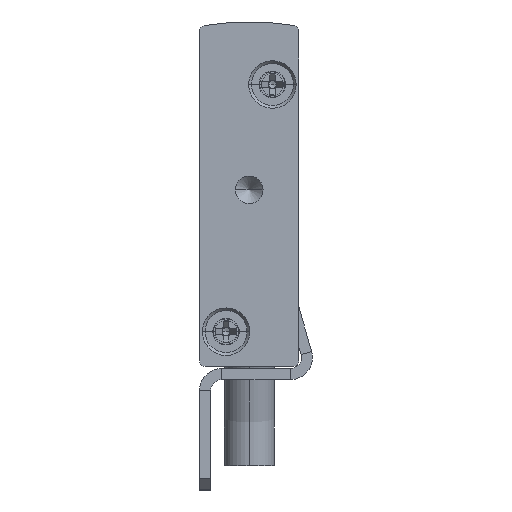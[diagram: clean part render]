
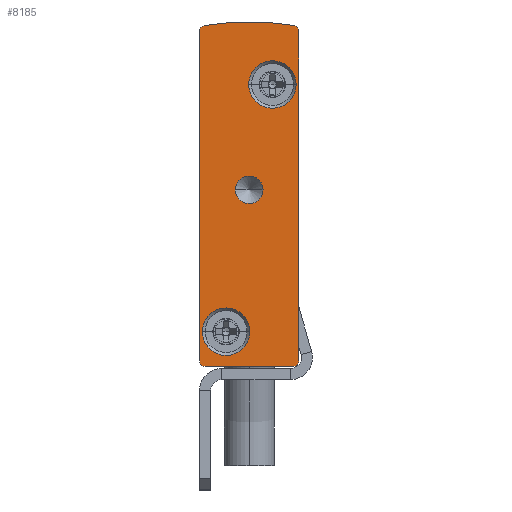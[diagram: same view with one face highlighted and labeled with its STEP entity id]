
A CAD part, front view. The second image highlights one B-rep face of the part: STEP entity #8185.
In plain terms, the highlighted planar face has unit normal (0, -1, 0).
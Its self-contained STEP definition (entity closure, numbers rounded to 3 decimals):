
#2 = CARTESIAN_POINT ( 'NONE',  ( -8.5, -2.5, 0. ) ) ;
#200 = AXIS2_PLACEMENT_3D ( 'NONE', #3385, #20024, #22254 ) ;
#532 = AXIS2_PLACEMENT_3D ( 'NONE', #8496, #1810, #4905 ) ;
#612 = LINE ( 'NONE', #11208, #20469 ) ;
#1168 = AXIS2_PLACEMENT_3D ( 'NONE', #7334, #2281, #15876 ) ;
#1370 = CARTESIAN_POINT ( 'NONE',  ( -8.5, -2.5, 0. ) ) ;
#1477 = DIRECTION ( 'NONE',  ( -1., 0., 0. ) ) ;
#1658 = FACE_BOUND ( 'NONE', #6077, .T. ) ;
#1697 = AXIS2_PLACEMENT_3D ( 'NONE', #4366, #7597, #7821 ) ;
#1810 = DIRECTION ( 'NONE',  ( 0., -1., 0. ) ) ;
#1840 = DIRECTION ( 'NONE',  ( -1., 0., 0. ) ) ;
#1948 = ORIENTED_EDGE ( 'NONE', *, *, #4881, .F. ) ;
#1969 = CARTESIAN_POINT ( 'NONE',  ( -9., -2.5, 30.402 ) ) ;
#2281 = DIRECTION ( 'NONE',  ( 0., -1., 0. ) ) ;
#2587 = EDGE_CURVE ( 'NONE', #16223, #15637, #18106, .T. ) ;
#2727 = CARTESIAN_POINT ( 'NONE',  ( -9., -2.5, 0.5 ) ) ;
#2774 = DIRECTION ( 'NONE',  ( -1., 0., 0. ) ) ;
#2893 = AXIS2_PLACEMENT_3D ( 'NONE', #19002, #17650, #10863 ) ;
#2923 = CIRCLE ( 'NONE', #13259, 23.658 ) ;
#2930 = CARTESIAN_POINT ( 'NONE',  ( -4.5, -2.5, 16. ) ) ;
#3251 = DIRECTION ( 'NONE',  ( 0., -1., 0. ) ) ;
#3293 = CIRCLE ( 'NONE', #16077, 2.15 ) ;
#3342 = CIRCLE ( 'NONE', #532, 2.15 ) ;
#3385 = CARTESIAN_POINT ( 'NONE',  ( -0.5, -2.5, 30.402 ) ) ;
#3428 = DIRECTION ( 'NONE',  ( -1., 0., 0. ) ) ;
#3610 = ORIENTED_EDGE ( 'NONE', *, *, #5762, .F. ) ;
#3763 = AXIS2_PLACEMENT_3D ( 'NONE', #17530, #17457, #1840 ) ;
#4147 = VERTEX_POINT ( 'NONE', #21912 ) ;
#4291 = CIRCLE ( 'NONE', #16846, 0.5 ) ;
#4363 = VECTOR ( 'NONE', #20777, 1000. ) ;
#4366 = CARTESIAN_POINT ( 'NONE',  ( -6.6, -2.5, 3.15 ) ) ;
#4851 = EDGE_CURVE ( 'NONE', #17698, #13204, #9985, .T. ) ;
#4881 = EDGE_CURVE ( 'NONE', #9770, #19755, #20948, .T. ) ;
#4905 = DIRECTION ( 'NONE',  ( 1., 0., 0. ) ) ;
#5040 = VERTEX_POINT ( 'NONE', #1370 ) ;
#5288 = CIRCLE ( 'NONE', #3763, 0.5 ) ;
#5591 = EDGE_LOOP ( 'NONE', ( #17947, #11066, #19235, #11333, #6554, #3610, #9309, #7881 ) ) ;
#5715 = FACE_BOUND ( 'NONE', #15559, .T. ) ;
#5742 = AXIS2_PLACEMENT_3D ( 'NONE', #9124, #7235, #20862 ) ;
#5762 = EDGE_CURVE ( 'NONE', #21184, #17698, #612, .T. ) ;
#5858 = ORIENTED_EDGE ( 'NONE', *, *, #16618, .F. ) ;
#6077 = EDGE_LOOP ( 'NONE', ( #8360, #6309 ) ) ;
#6246 = LINE ( 'NONE', #2, #4363 ) ;
#6268 = VERTEX_POINT ( 'NONE', #2727 ) ;
#6309 = ORIENTED_EDGE ( 'NONE', *, *, #10233, .T. ) ;
#6550 = EDGE_CURVE ( 'NONE', #13204, #5040, #6246, .T. ) ;
#6554 = ORIENTED_EDGE ( 'NONE', *, *, #4851, .F. ) ;
#6627 = CARTESIAN_POINT ( 'NONE',  ( -9., -2.5, 30.402 ) ) ;
#6826 = DIRECTION ( 'NONE',  ( 0., 1., 0. ) ) ;
#6901 = CARTESIAN_POINT ( 'NONE',  ( -4.5, -2.5, 7.592 ) ) ;
#6929 = VERTEX_POINT ( 'NONE', #17888 ) ;
#7235 = DIRECTION ( 'NONE',  ( 0., 1., 0. ) ) ;
#7244 = EDGE_CURVE ( 'NONE', #6268, #15433, #15902, .T. ) ;
#7334 = CARTESIAN_POINT ( 'NONE',  ( -6.6, -2.5, 3.15 ) ) ;
#7476 = EDGE_LOOP ( 'NONE', ( #16913, #1948 ) ) ;
#7597 = DIRECTION ( 'NONE',  ( 0., -1., 0. ) ) ;
#7821 = DIRECTION ( 'NONE',  ( 1., 0., 0. ) ) ;
#7881 = ORIENTED_EDGE ( 'NONE', *, *, #9158, .F. ) ;
#8185 = ADVANCED_FACE ( 'NONE', ( #5715, #9697, #12355, #1658 ), #10846, .F. ) ;
#8231 = CARTESIAN_POINT ( 'NONE',  ( -2.4, -2.5, 25.55 ) ) ;
#8259 = ORIENTED_EDGE ( 'NONE', *, *, #16978, .F. ) ;
#8360 = ORIENTED_EDGE ( 'NONE', *, *, #2587, .T. ) ;
#8496 = CARTESIAN_POINT ( 'NONE',  ( -2.4, -2.5, 25.55 ) ) ;
#8592 = CARTESIAN_POINT ( 'NONE',  ( -8.592, -2.5, 30.893 ) ) ;
#8883 = CARTESIAN_POINT ( 'NONE',  ( -5.75, -2.5, 16. ) ) ;
#8939 = EDGE_CURVE ( 'NONE', #19755, #9770, #20487, .T. ) ;
#9124 = CARTESIAN_POINT ( 'NONE',  ( -8.5, -2.5, 30.402 ) ) ;
#9158 = EDGE_CURVE ( 'NONE', #16053, #12154, #2923, .T. ) ;
#9258 = EDGE_CURVE ( 'NONE', #15433, #16053, #4291, .T. ) ;
#9294 = EDGE_CURVE ( 'NONE', #5040, #6268, #5288, .T. ) ;
#9309 = ORIENTED_EDGE ( 'NONE', *, *, #13898, .F. ) ;
#9697 = FACE_BOUND ( 'NONE', #7476, .T. ) ;
#9770 = VERTEX_POINT ( 'NONE', #12215 ) ;
#9985 = CIRCLE ( 'NONE', #2893, 0.5 ) ;
#10233 = EDGE_CURVE ( 'NONE', #15637, #16223, #13100, .T. ) ;
#10846 = PLANE ( 'NONE',  #5742 ) ;
#10863 = DIRECTION ( 'NONE',  ( -1., 0., 0. ) ) ;
#11066 = ORIENTED_EDGE ( 'NONE', *, *, #7244, .F. ) ;
#11208 = CARTESIAN_POINT ( 'NONE',  ( 0., -2.5, 30.402 ) ) ;
#11333 = ORIENTED_EDGE ( 'NONE', *, *, #6550, .F. ) ;
#12148 = DIRECTION ( 'NONE',  ( 0., 1., 0. ) ) ;
#12153 = CIRCLE ( 'NONE', #200, 0.5 ) ;
#12154 = VERTEX_POINT ( 'NONE', #20879 ) ;
#12169 = DIRECTION ( 'NONE',  ( 0., 1., 0. ) ) ;
#12215 = CARTESIAN_POINT ( 'NONE',  ( -8.75, -2.5, 3.15 ) ) ;
#12355 = FACE_OUTER_BOUND ( 'NONE', #5591, .T. ) ;
#12606 = AXIS2_PLACEMENT_3D ( 'NONE', #20510, #12148, #3428 ) ;
#13100 = CIRCLE ( 'NONE', #16143, 1.25 ) ;
#13204 = VERTEX_POINT ( 'NONE', #19536 ) ;
#13259 = AXIS2_PLACEMENT_3D ( 'NONE', #6901, #6826, #1477 ) ;
#13865 = CARTESIAN_POINT ( 'NONE',  ( -4.45, -2.5, 3.15 ) ) ;
#13898 = EDGE_CURVE ( 'NONE', #12154, #21184, #12153, .T. ) ;
#13901 = CARTESIAN_POINT ( 'NONE',  ( -8.5, -2.5, 30.402 ) ) ;
#15209 = DIRECTION ( 'NONE',  ( 1., 0., 0. ) ) ;
#15433 = VERTEX_POINT ( 'NONE', #1969 ) ;
#15559 = EDGE_LOOP ( 'NONE', ( #5858, #8259 ) ) ;
#15606 = DIRECTION ( 'NONE',  ( -1., 0., 0. ) ) ;
#15637 = VERTEX_POINT ( 'NONE', #21786 ) ;
#15876 = DIRECTION ( 'NONE',  ( 1., 0., 0. ) ) ;
#15902 = LINE ( 'NONE', #6627, #18304 ) ;
#16053 = VERTEX_POINT ( 'NONE', #8592 ) ;
#16077 = AXIS2_PLACEMENT_3D ( 'NONE', #8231, #3251, #15209 ) ;
#16143 = AXIS2_PLACEMENT_3D ( 'NONE', #2930, #21823, #2774 ) ;
#16223 = VERTEX_POINT ( 'NONE', #8883 ) ;
#16412 = DIRECTION ( 'NONE',  ( 0., 0., -1. ) ) ;
#16618 = EDGE_CURVE ( 'NONE', #4147, #6929, #3342, .T. ) ;
#16843 = CARTESIAN_POINT ( 'NONE',  ( 0., -2.5, 30.402 ) ) ;
#16846 = AXIS2_PLACEMENT_3D ( 'NONE', #13901, #12169, #15606 ) ;
#16913 = ORIENTED_EDGE ( 'NONE', *, *, #8939, .F. ) ;
#16978 = EDGE_CURVE ( 'NONE', #6929, #4147, #3293, .T. ) ;
#17457 = DIRECTION ( 'NONE',  ( 0., 1., 0. ) ) ;
#17530 = CARTESIAN_POINT ( 'NONE',  ( -8.5, -2.5, 0.5 ) ) ;
#17650 = DIRECTION ( 'NONE',  ( 0., 1., 0. ) ) ;
#17698 = VERTEX_POINT ( 'NONE', #17846 ) ;
#17846 = CARTESIAN_POINT ( 'NONE',  ( 0., -2.5, 0.5 ) ) ;
#17888 = CARTESIAN_POINT ( 'NONE',  ( -4.55, -2.5, 25.55 ) ) ;
#17947 = ORIENTED_EDGE ( 'NONE', *, *, #9258, .F. ) ;
#18106 = CIRCLE ( 'NONE', #12606, 1.25 ) ;
#18304 = VECTOR ( 'NONE', #20306, 1000. ) ;
#19002 = CARTESIAN_POINT ( 'NONE',  ( -0.5, -2.5, 0.5 ) ) ;
#19235 = ORIENTED_EDGE ( 'NONE', *, *, #9294, .F. ) ;
#19536 = CARTESIAN_POINT ( 'NONE',  ( -0.5, -2.5, 0. ) ) ;
#19755 = VERTEX_POINT ( 'NONE', #13865 ) ;
#20024 = DIRECTION ( 'NONE',  ( 0., 1., 0. ) ) ;
#20306 = DIRECTION ( 'NONE',  ( 0., 0., 1. ) ) ;
#20469 = VECTOR ( 'NONE', #16412, 1000. ) ;
#20487 = CIRCLE ( 'NONE', #1697, 2.15 ) ;
#20510 = CARTESIAN_POINT ( 'NONE',  ( -4.5, -2.5, 16. ) ) ;
#20777 = DIRECTION ( 'NONE',  ( -1., 0., 0. ) ) ;
#20862 = DIRECTION ( 'NONE',  ( -1., 0., 0. ) ) ;
#20879 = CARTESIAN_POINT ( 'NONE',  ( -0.408, -2.5, 30.893 ) ) ;
#20948 = CIRCLE ( 'NONE', #1168, 2.15 ) ;
#21184 = VERTEX_POINT ( 'NONE', #16843 ) ;
#21786 = CARTESIAN_POINT ( 'NONE',  ( -3.25, -2.5, 16. ) ) ;
#21823 = DIRECTION ( 'NONE',  ( 0., 1., 0. ) ) ;
#21912 = CARTESIAN_POINT ( 'NONE',  ( -0.25, -2.5, 25.55 ) ) ;
#22254 = DIRECTION ( 'NONE',  ( -1., 0., 0. ) ) ;
